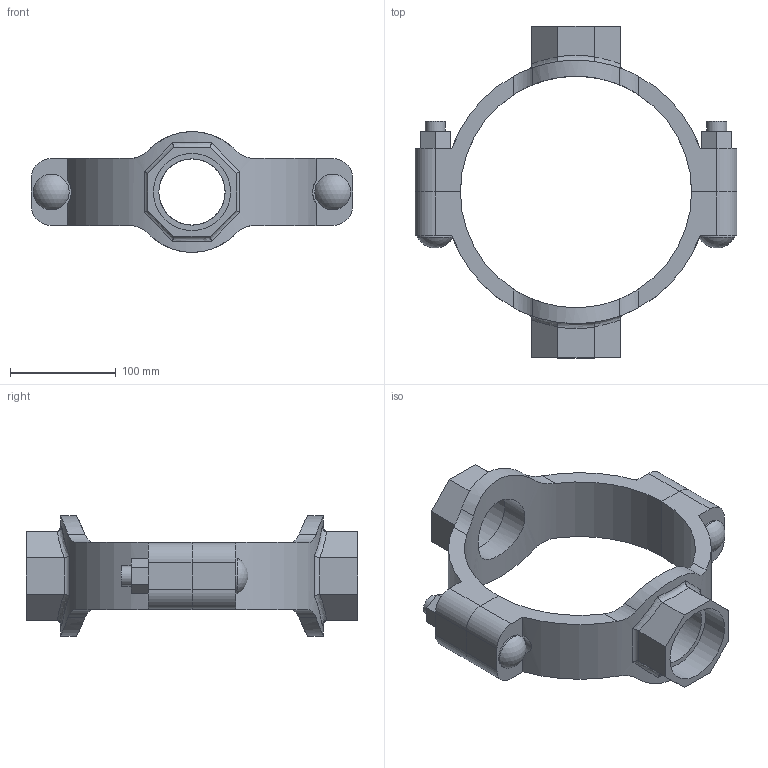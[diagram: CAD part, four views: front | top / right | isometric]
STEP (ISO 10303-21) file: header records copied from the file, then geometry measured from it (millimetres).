
FILE_DESCRIPTION(/* description */ ('VIC MECH-T BRANCH OUTLET CROSS STYLE 920N (THD)','CAx-IF Rec.Pracs.---Representation and Presentation of Product Manufacturing Information (PMI)---4.0---2014-10-13'),/* implementation_level */ '2;1');
FILE_NAME(/* name */ 'C:\Users\Vjadhav\AppData\Roaming\Autodesk\ApplicationPlugins\Back Up\Victaulic_IPS_Mechanical-Cross Outlet_Style 920N (FPT)\Victaulic_IPS_Mechanical-Cross Outlet_08.0x02.5x02.5 (200x65x65).stp',/* time_stamp */ '2020-08-06T19:00:56+06:00',/* author */ ('Vjadhav'),/* organization */ ('Victaulic'),/* preprocessor_version */ 'ST-DEVELOPER v17.2',/* originating_system */ 'Autodesk Inventor 2019',/* authorisation */ '');
FILE_SCHEMA (('AP242_MANAGED_MODEL_BASED_3D_ENGINEERING_MIM_LF { 1 0 10303 442 1 1 4 }'));
Length unit declared in the file: inch
Products named in the file (3): 920NT-08.0x02.5x02.5; 920T-08.0x02.5; 920T-08.0x02.5_1
Assembly tree (2 placements, depth 2):
  920NT-08.0x02.5x02.5
    920T-08.0x02.5
    920T-08.0x02.5_1
Bounding box: 304.8 x 314.45 x 114.3 mm (x, y, z)
Volume: 1150774.3 mm3; surface area: 213922 mm2
Topology: 2 solids, 2 shells, 132 faces, 350 edges, 236 vertices
Faces by surface type: plane 68, cylinder 50, bspline 8, torus 4, sphere 2
Full cylindrical faces by diameter (mm): 19.05 x4, 33.843 x2, 62.738 x2, 73.025 x2
Entity records: 5249 total; most frequent: CARTESIAN_POINT 1736, ORIENTED_EDGE 700, DIRECTION 648, EDGE_CURVE 350, VERTEX_POINT 236, AXIS2_PLACEMENT_3D 231, LINE 186, VECTOR 186
